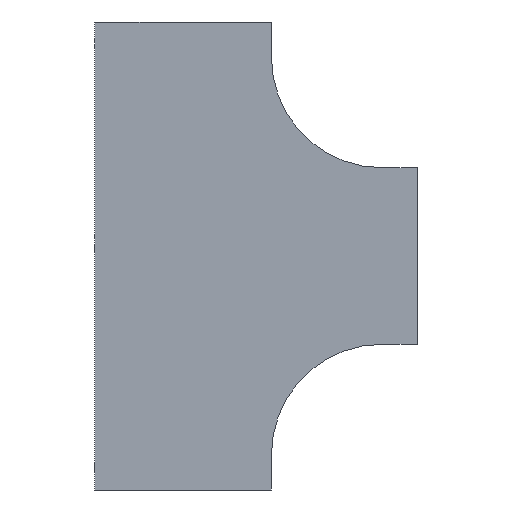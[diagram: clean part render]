
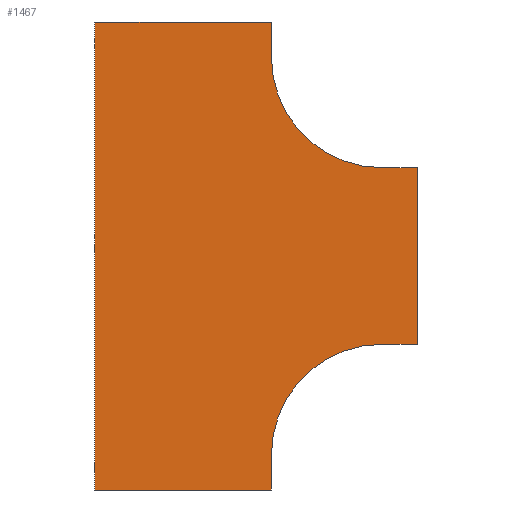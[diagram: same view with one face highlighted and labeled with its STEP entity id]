
A CAD part, front view. The second image highlights one B-rep face of the part: STEP entity #1467.
In plain terms, the highlighted planar face has unit normal (0, -1, 0).
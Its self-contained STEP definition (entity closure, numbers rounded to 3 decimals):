
#66 = LINE ( 'NONE', #242, #1624 ) ;
#74 = DIRECTION ( 'NONE',  ( -1., 0., 0. ) ) ;
#91 = CARTESIAN_POINT ( 'NONE',  ( -325., 0., 40. ) ) ;
#100 = CARTESIAN_POINT ( 'NONE',  ( -125., 0., -490. ) ) ;
#101 = AXIS2_PLACEMENT_3D ( 'NONE', #1270, #1808, #230 ) ;
#119 = ORIENTED_EDGE ( 'NONE', *, *, #1496, .F. ) ;
#125 = PLANE ( 'NONE',  #602 ) ;
#126 = LINE ( 'NONE', #100, #968 ) ;
#149 = DIRECTION ( 'NONE',  ( 0., 0., -1. ) ) ;
#181 = CARTESIAN_POINT ( 'NONE',  ( 40., 0., -325. ) ) ;
#186 = CARTESIAN_POINT ( 'NONE',  ( -325., 0., -490. ) ) ;
#221 = LINE ( 'NONE', #1144, #1888 ) ;
#230 = DIRECTION ( 'NONE',  ( 0., 0., -1. ) ) ;
#237 = ORIENTED_EDGE ( 'NONE', *, *, #1975, .F. ) ;
#242 = CARTESIAN_POINT ( 'NONE',  ( 0., 0., -125. ) ) ;
#250 = LINE ( 'NONE', #1656, #831 ) ;
#352 = CARTESIAN_POINT ( 'NONE',  ( 0., 0., -325. ) ) ;
#359 = ORIENTED_EDGE ( 'NONE', *, *, #519, .F. ) ;
#381 = VERTEX_POINT ( 'NONE', #1219 ) ;
#391 = ORIENTED_EDGE ( 'NONE', *, *, #422, .F. ) ;
#406 = ORIENTED_EDGE ( 'NONE', *, *, #1801, .F. ) ;
#420 = VECTOR ( 'NONE', #74, 1000. ) ;
#422 = EDGE_CURVE ( 'NONE', #1527, #1344, #1491, .T. ) ;
#471 = CARTESIAN_POINT ( 'NONE',  ( -325., 0., -490. ) ) ;
#518 = DIRECTION ( 'NONE',  ( 0., 0., -1. ) ) ;
#519 = EDGE_CURVE ( 'NONE', #782, #2159, #1273, .T. ) ;
#546 = ORIENTED_EDGE ( 'NONE', *, *, #890, .F. ) ;
#568 = CARTESIAN_POINT ( 'NONE',  ( -125., 0., -450. ) ) ;
#581 = DIRECTION ( 'NONE',  ( 1., 0., 0. ) ) ;
#583 = EDGE_CURVE ( 'NONE', #837, #1527, #250, .T. ) ;
#588 = EDGE_CURVE ( 'NONE', #1995, #2101, #221, .T. ) ;
#590 = DIRECTION ( 'NONE',  ( 0., 0., -1. ) ) ;
#592 = ORIENTED_EDGE ( 'NONE', *, *, #583, .F. ) ;
#602 = AXIS2_PLACEMENT_3D ( 'NONE', #2299, #1201, #673 ) ;
#673 = DIRECTION ( 'NONE',  ( 0., 0., -1. ) ) ;
#724 = CARTESIAN_POINT ( 'NONE',  ( 40., 0., -125. ) ) ;
#782 = VERTEX_POINT ( 'NONE', #471 ) ;
#821 = CIRCLE ( 'NONE', #101, 125. ) ;
#831 = VECTOR ( 'NONE', #2218, 1000. ) ;
#837 = VERTEX_POINT ( 'NONE', #181 ) ;
#890 = EDGE_CURVE ( 'NONE', #1813, #782, #1336, .T. ) ;
#959 = EDGE_LOOP ( 'NONE', ( #990, #359, #546, #406, #391, #592, #119, #1588, #237, #1386 ) ) ;
#968 = VECTOR ( 'NONE', #149, 1000. ) ;
#974 = VECTOR ( 'NONE', #1838, 1000. ) ;
#978 = VECTOR ( 'NONE', #1961, 1000. ) ;
#990 = ORIENTED_EDGE ( 'NONE', *, *, #1040, .F. ) ;
#1040 = EDGE_CURVE ( 'NONE', #2159, #1995, #2307, .T. ) ;
#1064 = LINE ( 'NONE', #724, #1131 ) ;
#1131 = VECTOR ( 'NONE', #518, 1000. ) ;
#1144 = CARTESIAN_POINT ( 'NONE',  ( -125., 0., 40. ) ) ;
#1180 = CARTESIAN_POINT ( 'NONE',  ( 0., 0., -450. ) ) ;
#1201 = DIRECTION ( 'NONE',  ( 0., -1., 0. ) ) ;
#1219 = CARTESIAN_POINT ( 'NONE',  ( 0., 0., -125. ) ) ;
#1270 = CARTESIAN_POINT ( 'NONE',  ( 0., 0., 0. ) ) ;
#1273 = LINE ( 'NONE', #186, #974 ) ;
#1301 = CARTESIAN_POINT ( 'NONE',  ( -125., 0., 40. ) ) ;
#1336 = LINE ( 'NONE', #1871, #420 ) ;
#1344 = VERTEX_POINT ( 'NONE', #568 ) ;
#1386 = ORIENTED_EDGE ( 'NONE', *, *, #588, .F. ) ;
#1408 = DIRECTION ( 'NONE',  ( 0., -1., 0. ) ) ;
#1411 = CARTESIAN_POINT ( 'NONE',  ( 40., 0., -125. ) ) ;
#1467 = ADVANCED_FACE ( 'NONE', ( #2078 ), #125, .T. ) ;
#1491 = CIRCLE ( 'NONE', #1597, 125. ) ;
#1496 = EDGE_CURVE ( 'NONE', #2264, #837, #1064, .T. ) ;
#1521 = CARTESIAN_POINT ( 'NONE',  ( -125., 0., 0. ) ) ;
#1527 = VERTEX_POINT ( 'NONE', #352 ) ;
#1588 = ORIENTED_EDGE ( 'NONE', *, *, #1689, .F. ) ;
#1597 = AXIS2_PLACEMENT_3D ( 'NONE', #1180, #1408, #2095 ) ;
#1624 = VECTOR ( 'NONE', #581, 1000. ) ;
#1656 = CARTESIAN_POINT ( 'NONE',  ( 0., 0., -325. ) ) ;
#1689 = EDGE_CURVE ( 'NONE', #381, #2264, #66, .T. ) ;
#1801 = EDGE_CURVE ( 'NONE', #1344, #1813, #126, .T. ) ;
#1808 = DIRECTION ( 'NONE',  ( 0., -1., 0. ) ) ;
#1813 = VERTEX_POINT ( 'NONE', #2080 ) ;
#1838 = DIRECTION ( 'NONE',  ( 0., 0., 1. ) ) ;
#1871 = CARTESIAN_POINT ( 'NONE',  ( -325., 0., -490. ) ) ;
#1888 = VECTOR ( 'NONE', #590, 1000. ) ;
#1961 = DIRECTION ( 'NONE',  ( 1., 0., 0. ) ) ;
#1975 = EDGE_CURVE ( 'NONE', #2101, #381, #821, .T. ) ;
#1995 = VERTEX_POINT ( 'NONE', #1301 ) ;
#2078 = FACE_OUTER_BOUND ( 'NONE', #959, .T. ) ;
#2080 = CARTESIAN_POINT ( 'NONE',  ( -125., 0., -490. ) ) ;
#2095 = DIRECTION ( 'NONE',  ( 0., 0., 1. ) ) ;
#2101 = VERTEX_POINT ( 'NONE', #1521 ) ;
#2159 = VERTEX_POINT ( 'NONE', #91 ) ;
#2218 = DIRECTION ( 'NONE',  ( -1., 0., 0. ) ) ;
#2264 = VERTEX_POINT ( 'NONE', #1411 ) ;
#2299 = CARTESIAN_POINT ( 'NONE',  ( 0., 0., 0. ) ) ;
#2307 = LINE ( 'NONE', #2322, #978 ) ;
#2322 = CARTESIAN_POINT ( 'NONE',  ( -325., 0., 40. ) ) ;
